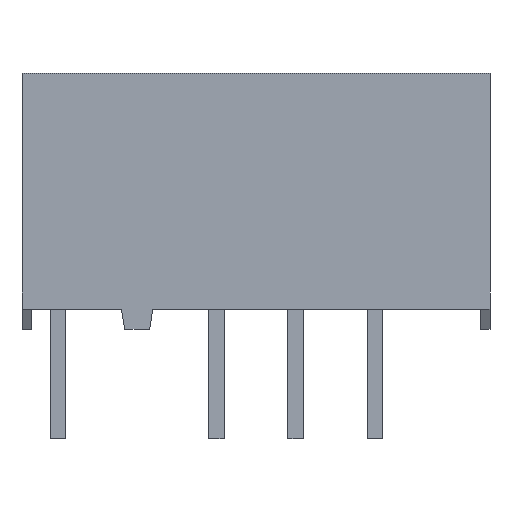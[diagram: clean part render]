
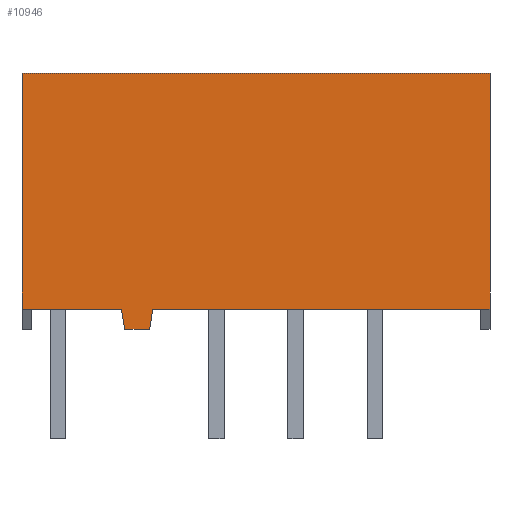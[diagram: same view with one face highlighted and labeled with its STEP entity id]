
A CAD part, front view. The second image highlights one B-rep face of the part: STEP entity #10946.
In plain terms, the highlighted planar face has unit normal (0, -1, 0).
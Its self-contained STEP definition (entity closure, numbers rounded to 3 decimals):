
#201 = VECTOR ( 'NONE', #13596, 1000. ) ;
#835 = DIRECTION ( 'NONE',  ( 1., 0., 0. ) ) ;
#943 = FACE_OUTER_BOUND ( 'NONE', #10689, .T. ) ;
#1626 = EDGE_CURVE ( 'NONE', #7165, #11718, #2483, .T. ) ;
#1687 = CARTESIAN_POINT ( 'NONE',  ( -4.21, -3.7, 0. ) ) ;
#1858 = CARTESIAN_POINT ( 'NONE',  ( -7.5, -3.7, 0.65 ) ) ;
#1900 = CARTESIAN_POINT ( 'NONE',  ( -3.41, -3.7, 0. ) ) ;
#1917 = VECTOR ( 'NONE', #3251, 1000. ) ;
#1949 = LINE ( 'NONE', #9009, #13846 ) ;
#2133 = DIRECTION ( 'NONE',  ( 1., 0., 0. ) ) ;
#2351 = VERTEX_POINT ( 'NONE', #7202 ) ;
#2441 = LINE ( 'NONE', #1900, #8399 ) ;
#2483 = LINE ( 'NONE', #1858, #7532 ) ;
#2589 = VERTEX_POINT ( 'NONE', #14166 ) ;
#3152 = CARTESIAN_POINT ( 'NONE',  ( 7.5, -3.7, 0.65 ) ) ;
#3251 = DIRECTION ( 'NONE',  ( 0., 0., -1. ) ) ;
#3300 = CARTESIAN_POINT ( 'NONE',  ( -7.5, -3.7, 8.2 ) ) ;
#3824 = EDGE_CURVE ( 'NONE', #4221, #4469, #2441, .T. ) ;
#3921 = ORIENTED_EDGE ( 'NONE', *, *, #3824, .T. ) ;
#3937 = CARTESIAN_POINT ( 'NONE',  ( -4.21, -3.7, 0. ) ) ;
#4221 = VERTEX_POINT ( 'NONE', #13114 ) ;
#4266 = DIRECTION ( 'NONE',  ( -1., 0., 0. ) ) ;
#4311 = VECTOR ( 'NONE', #835, 1000. ) ;
#4411 = CARTESIAN_POINT ( 'NONE',  ( 7.5, -3.7, 8.2 ) ) ;
#4469 = VERTEX_POINT ( 'NONE', #4926 ) ;
#4926 = CARTESIAN_POINT ( 'NONE',  ( -3.31, -3.7, 0.65 ) ) ;
#5009 = EDGE_CURVE ( 'NONE', #2351, #7165, #11463, .T. ) ;
#5263 = DIRECTION ( 'NONE',  ( 0., 1., 0. ) ) ;
#5417 = DIRECTION ( 'NONE',  ( -1., 0., 0. ) ) ;
#6110 = LINE ( 'NONE', #6552, #13704 ) ;
#6469 = DIRECTION ( 'NONE',  ( 0.152, 0., 0.988 ) ) ;
#6479 = CARTESIAN_POINT ( 'NONE',  ( -7.5, -3.7, 8.2 ) ) ;
#6545 = ORIENTED_EDGE ( 'NONE', *, *, #12822, .T. ) ;
#6552 = CARTESIAN_POINT ( 'NONE',  ( -7.5, -3.7, 0.65 ) ) ;
#7165 = VERTEX_POINT ( 'NONE', #12705 ) ;
#7202 = CARTESIAN_POINT ( 'NONE',  ( -7.5, -3.7, 8.2 ) ) ;
#7243 = EDGE_CURVE ( 'NONE', #11718, #8204, #11259, .T. ) ;
#7532 = VECTOR ( 'NONE', #12273, 1000. ) ;
#7564 = ORIENTED_EDGE ( 'NONE', *, *, #10989, .F. ) ;
#8100 = ORIENTED_EDGE ( 'NONE', *, *, #5009, .T. ) ;
#8204 = VERTEX_POINT ( 'NONE', #1687 ) ;
#8205 = CARTESIAN_POINT ( 'NONE',  ( -4.31, -3.7, 0.65 ) ) ;
#8399 = VECTOR ( 'NONE', #6469, 1000. ) ;
#8923 = ORIENTED_EDGE ( 'NONE', *, *, #7243, .T. ) ;
#9009 = CARTESIAN_POINT ( 'NONE',  ( -4.31, -3.7, 0. ) ) ;
#9286 = ORIENTED_EDGE ( 'NONE', *, *, #13720, .F. ) ;
#9393 = VERTEX_POINT ( 'NONE', #3152 ) ;
#9849 = ORIENTED_EDGE ( 'NONE', *, *, #1626, .T. ) ;
#10689 = EDGE_LOOP ( 'NONE', ( #8923, #13648, #3921, #6545, #7564, #9286, #8100, #9849 ) ) ;
#10842 = DIRECTION ( 'NONE',  ( 0.152, 0., -0.988 ) ) ;
#10946 = ADVANCED_FACE ( 'NONE', ( #943 ), #11173, .F. ) ;
#10989 = EDGE_CURVE ( 'NONE', #2589, #9393, #11208, .T. ) ;
#11173 = PLANE ( 'NONE',  #14627 ) ;
#11208 = LINE ( 'NONE', #4411, #201 ) ;
#11259 = LINE ( 'NONE', #3937, #12859 ) ;
#11463 = LINE ( 'NONE', #3300, #1917 ) ;
#11718 = VERTEX_POINT ( 'NONE', #8205 ) ;
#12273 = DIRECTION ( 'NONE',  ( 1., 0., 0. ) ) ;
#12705 = CARTESIAN_POINT ( 'NONE',  ( -7.5, -3.7, 0.65 ) ) ;
#12822 = EDGE_CURVE ( 'NONE', #4469, #9393, #6110, .T. ) ;
#12859 = VECTOR ( 'NONE', #10842, 1000. ) ;
#13114 = CARTESIAN_POINT ( 'NONE',  ( -3.41, -3.7, 0. ) ) ;
#13596 = DIRECTION ( 'NONE',  ( 0., 0., -1. ) ) ;
#13648 = ORIENTED_EDGE ( 'NONE', *, *, #14686, .F. ) ;
#13704 = VECTOR ( 'NONE', #2133, 1000. ) ;
#13720 = EDGE_CURVE ( 'NONE', #2351, #2589, #14970, .T. ) ;
#13846 = VECTOR ( 'NONE', #5417, 1000. ) ;
#14166 = CARTESIAN_POINT ( 'NONE',  ( 7.5, -3.7, 8.2 ) ) ;
#14627 = AXIS2_PLACEMENT_3D ( 'NONE', #6479, #5263, #4266 ) ;
#14686 = EDGE_CURVE ( 'NONE', #4221, #8204, #1949, .T. ) ;
#14691 = CARTESIAN_POINT ( 'NONE',  ( -7.5, -3.7, 8.2 ) ) ;
#14970 = LINE ( 'NONE', #14691, #4311 ) ;
